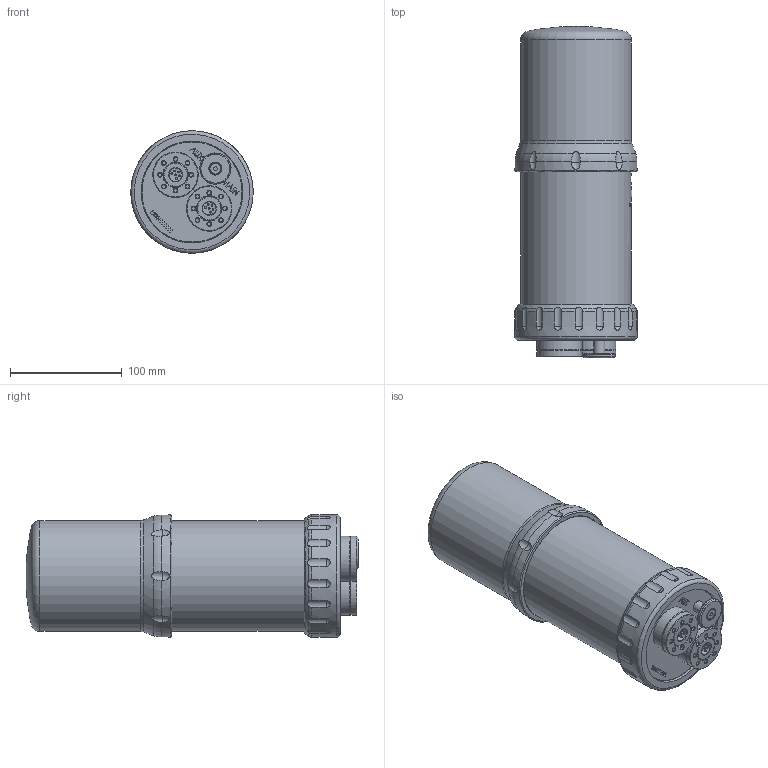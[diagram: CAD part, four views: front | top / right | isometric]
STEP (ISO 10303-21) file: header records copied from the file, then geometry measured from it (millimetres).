
FILE_DESCRIPTION (( 'STEP AP214' ), '1' );
FILE_NAME ('Super Seaking DFP Profiler 600-1100 kHz.STEP', '2014-12-10T09:24:46', ( 'Allan' ), ( 'Microsoft' ), 'SwSTEP 2.0', 'SolidWorks 2013', '' );
FILE_SCHEMA (( 'AUTOMOTIVE_DESIGN' ));
Length unit declared in the file: inch
Products named in the file (1): Super Seaking DFP Profiler 600-1100 kHz
Bounding box: 109.63 x 297.71 x 109.64 mm (x, y, z)
Surface area: 133904.5 mm2 (no closed solid volume)
Topology: 0 solids, 44 shells, 345 faces, 1560 edges, 1187 vertices
Faces by surface type: cylinder 125, plane 87, torus 48, cone 36, sphere 34, bspline 15
Full cylindrical faces by diameter (mm): 1.5 x12, 3 x12, 3.43 x16, 7 x8, 8.5 x1, 9.8 x2, 10 x3, 11.69 x2, 11.8 x1, 12 x1, 21.94 x2, 28 x2, 40.7 x4, 69.65 x1, 70 x1, 91.55 x1, 98.8 x2, 99 x1, 99.5 x1, 100.54 x1, 109.5 x1, 109.64 x1
Entity records: 24705 total; most frequent: CARTESIAN_POINT 9525, DIRECTION 1975, ORIENTED_EDGE 1838, EDGE_CURVE 1309, VERTEX_POINT 1100, AXIS2_PLACEMENT_3D 741, EDGE_LOOP 583, VECTOR 493
